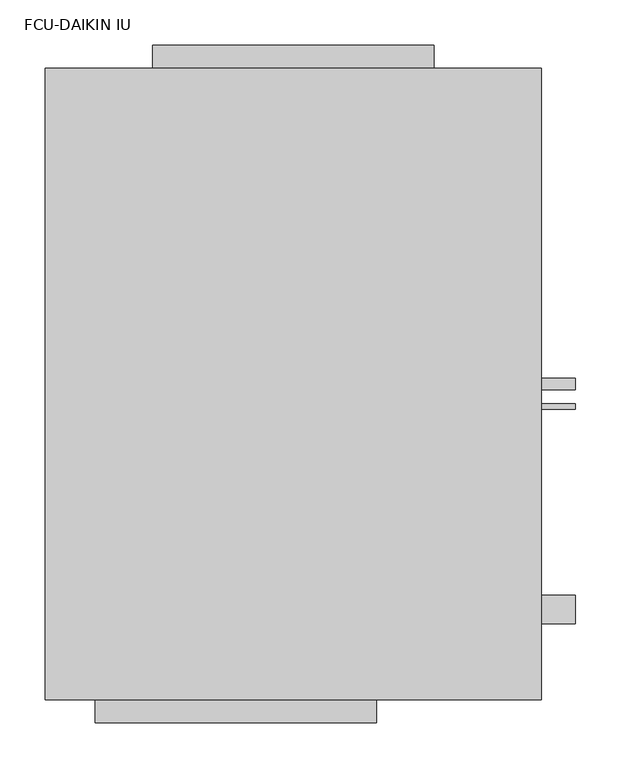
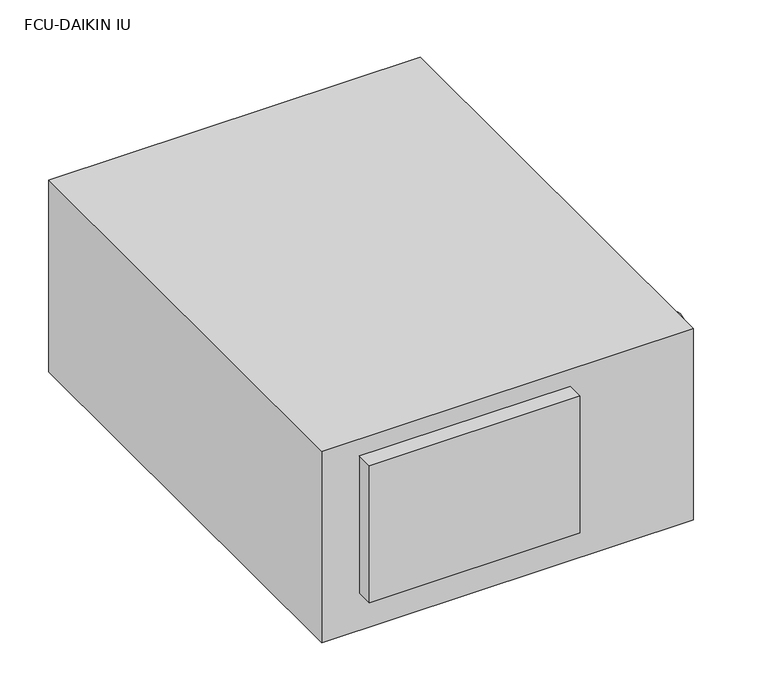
"""IFC4 building model written with IfcOpenShell, lengths in millimetres: proxy geometry, FCU-DAIKIN IU : 2.3kW, 230V/50Hz/1Ph."""

from ifc_helpers import new_model, si_unit, point, frame, frame_2d, origin, origin_with_axes, place, context, project, spatial, polyline, circle_curve, trimmed, segment, composite_curve, outline, extrude, source, transform, mapped, element, save


def fcu_daikin_iu_27d020f6(model_context):
    return source(origin(), model_context, "Body", "SweptSolid", [
        extrude(outline(polyline([(155.9375, 350.0), (-155.9375, 350.0), (-155.9375, 375.4), (155.9375, 375.4), (155.9375, 350.0)])), frame((0.0, 0.0, 34.05), z_axis=(0.0, 0.0, 1.0), x_axis=(1.0, 0.0, 0.0)), (0.0, 0.0, 1.0), 214.3),
        extrude(outline(composite_curve([segment(trimmed(circle_curve(frame_2d((-250.0, 233.3)), 15.9), [point((-265.9, 233.3))], [point((-234.1, 233.3))], False, "CARTESIAN"), True, "CONTINUOUS"), segment(trimmed(circle_curve(frame_2d((-250.0, 233.3)), 15.9), [point((-234.1, 233.3))], [point((-265.9, 233.3))], False, "CARTESIAN"), True, "CONTINUOUS")], self_intersect=False)), frame((275.0, 0.0, 0.0), z_axis=(1.0, 0.0, 0.0), x_axis=(0.0, 1.0, 0.0)), (0.0, 0.0, 1.0), 38.1),
        extrude(outline(composite_curve([segment(trimmed(circle_curve(frame_2d((0.0, 100.0)), 6.35), [point((-6.35, 100.0))], [point((6.35, 100.0))], False, "CARTESIAN"), True, "CONTINUOUS"), segment(trimmed(circle_curve(frame_2d((0.0, 100.0)), 6.35), [point((6.35, 100.0))], [point((-6.35, 100.0))], False, "CARTESIAN"), True, "CONTINUOUS")], self_intersect=False)), frame((275.0, 0.0, 0.0), z_axis=(1.0, 0.0, 0.0), x_axis=(0.0, 1.0, 0.0)), (0.0, 0.0, 1.0), 38.1),
        extrude(outline(composite_curve([segment(trimmed(circle_curve(frame_2d((-25.0, 150.8)), 3.2), [point((-28.2, 150.8))], [point((-21.8, 150.8))], False, "CARTESIAN"), True, "CONTINUOUS"), segment(trimmed(circle_curve(frame_2d((-25.0, 150.8)), 3.2), [point((-21.8, 150.8))], [point((-28.2, 150.8))], False, "CARTESIAN"), True, "CONTINUOUS")], self_intersect=False)), frame((275.0, 0.0, 0.0), z_axis=(1.0, 0.0, 0.0), x_axis=(0.0, 1.0, 0.0)), (0.0, 0.0, 1.0), 38.1),
        extrude(outline(polyline([(92.4375, -375.4), (-219.4375, -375.4), (-219.4375, -350.0), (92.4375, -350.0), (92.4375, -375.4)])), frame((0.0, 0.0, 58.775), z_axis=(0.0, 0.0, 1.0), x_axis=(1.0, 0.0, 0.0)), (0.0, 0.0, 1.0), 214.275),
        extrude(outline(polyline([(275.0, -350.0), (-275.0, -350.0), (-275.0, 350.0), (275.0, 350.0), (275.0, -350.0)])), origin_with_axes(), (0.0, 0.0, 1.0), 300.0),
    ])


if __name__ == "__main__":
    model = new_model("IFC4")
    model_context = context("Model", 3, world=origin())
    ifc_project = project(units=[si_unit("LENGTHUNIT", "METRE", prefix="MILLI")], contexts=[model_context])
    site = spatial("IfcSite", under=ifc_project)
    building = spatial("IfcBuilding", under=site)
    placement = place(None, origin())
    fcu_daikin_iu_shape = fcu_daikin_iu_27d020f6(model_context)
    element("IfcBuildingElementProxy", 1, Name="FCU-DAIKIN IU : 2.3kW, 230V/50Hz/1Ph", ObjectType="FCU-DAIKIN IU : 2.3kW, 230V/50Hz/1Ph", at=placement, inside=building, context=model_context, shape_type="MappedRepresentation", body=[
        mapped(fcu_daikin_iu_shape, transform((0.0, 0.0, 0.0), x_axis=(1.0, 0.0, 0.0), y_axis=(0.0, 1.0, 0.0), z_axis=(0.0, 0.0, 1.0))),
    ])
    save(model, "model.ifc")
